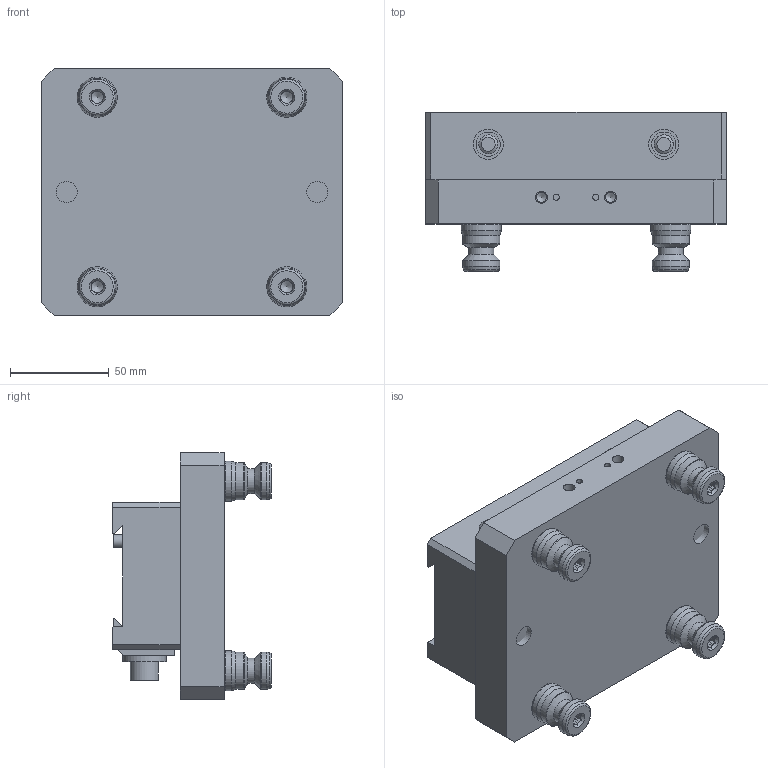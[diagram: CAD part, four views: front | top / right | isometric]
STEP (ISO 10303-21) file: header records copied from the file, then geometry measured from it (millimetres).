
FILE_DESCRIPTION (( 'STEP AP214' ), '1' );
FILE_NAME ('A96-D362_WEBSITE.STEP', '2025-08-11T07:09:55', ( '' ), ( '' ), 'SwSTEP 2.0', 'SolidWorks 2024', '' );
FILE_SCHEMA (( 'AUTOMOTIVE_DESIGN' ));
Length unit declared in the file: millimetre
Products named in the file (16): D_PS20F_WEBSITE; D_HW.0375.FW_WEBSITE_98029A031; D_LP250_WEBSITE_NO THREADS ; A96-D362_WEBSITE; D_HW.LC045G02M_WEBSITE_HW.LC045G02M; D_HW.72170_WEBSITE_DEFAULT; D_HW.03819_WEBSITE_HW.03819; D_HW.72226.SHCS_WEBSITE_HW.72226; D_D362-1_WEBSITE; D_D362_WEBSITE; D_CDM375_WEBSITE; A96-D362-1_WEBSITE; D_PS20F-1_WEBSITE_HARD TURN; D_LP375_WEBSITE_NO THREADS; D_39874.CPSS_WEBSITE_91390A162; D_SLD375_WEBSITE_SLD375
Assembly tree (26 placements, depth 3):
  A96-D362_WEBSITE
    A96-D362-1_WEBSITE
    D_PS20F_WEBSITE  x4
      D_PS20F-1_WEBSITE_HARD TURN
      D_39874.CPSS_WEBSITE_91390A162
    D_D362_WEBSITE
      D_D362-1_WEBSITE
      D_CDM375_WEBSITE  x2
      D_SLD375_WEBSITE_SLD375  x2
      D_HW.LC045G02M_WEBSITE_HW.LC045G02M  x2
      D_HW.72170_WEBSITE_DEFAULT  x2
      D_HW.0375.FW_WEBSITE_98029A031  x2
      D_LP250_WEBSITE_NO THREADS   x2
      D_LP375_WEBSITE_NO THREADS
      D_HW.03819_WEBSITE_HW.03819  x2
      D_HW.72226.SHCS_WEBSITE_HW.72226  x2
Bounding box: 152.4 x 80.52 x 124.99 mm (x, y, z)
Volume: 776704.5 mm3; surface area: 152226.8 mm2
Topology: 27 solids, 27 shells, 1052 faces, 2475 edges, 1589 vertices
Faces by surface type: plane 630, bspline 169, cylinder 122, cone 111, torus 20
Full cylindrical faces by diameter (mm): 1.284 x1, 1.471 x1, 3.03 x2, 3.759 x3, 4.039 x3, 4.803 x2, 4.826 x2, 5 x2, 6 x2, 6.147 x4, 6.35 x2, 6.375 x3, 7.937 x2, 8.5 x4, 9.525 x5, 9.55 x2, 10 x8, 10.312 x2, 10.319 x2, 10.716 x2, 11 x4, 11.303 x2, 12.319 x2, 12.497 x4, 12.7 x4, 13.525 x2, 14.288 x2, 15.24 x2, 15.875 x2, 15.913 x2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
Entity records: 29304 total; most frequent: CARTESIAN_POINT 11981, ORIENTED_EDGE 3420, DIRECTION 2788, EDGE_CURVE 1710, VERTEX_POINT 1176, LINE 1150, VECTOR 1150, EDGE_LOOP 976
